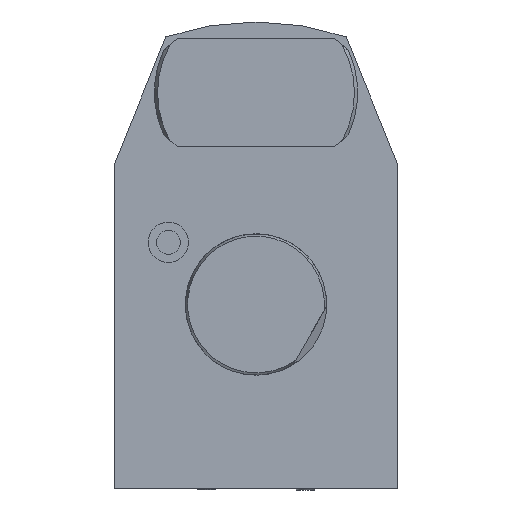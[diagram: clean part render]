
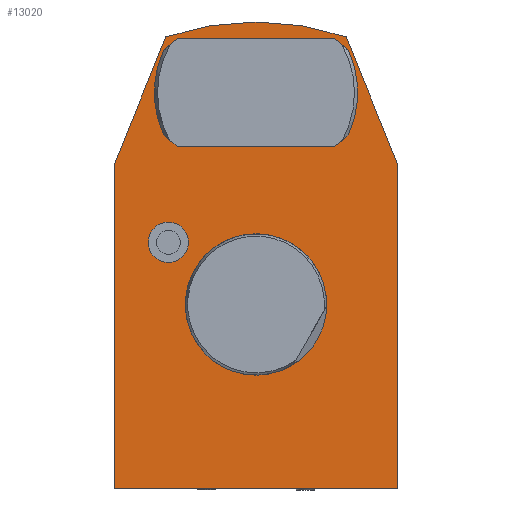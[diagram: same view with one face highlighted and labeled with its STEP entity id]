
A CAD part, left-side view. The second image highlights one B-rep face of the part: STEP entity #13020.
In plain terms, the highlighted planar face has unit normal (-1, 0, 0).
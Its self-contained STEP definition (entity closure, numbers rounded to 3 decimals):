
#5728=CIRCLE('',#12445,100.);
#5729=CIRCLE('',#12446,7.135);
#5730=CIRCLE('',#12447,25.);
#5731=CIRCLE('',#12448,30.);
#5732=CIRCLE('',#12449,30.);
#5976=ORIENTED_EDGE('',*,*,#8189,.F.);
#5977=ORIENTED_EDGE('',*,*,#8190,.F.);
#5978=ORIENTED_EDGE('',*,*,#8169,.F.);
#5979=ORIENTED_EDGE('',*,*,#8191,.F.);
#5980=ORIENTED_EDGE('',*,*,#8180,.F.);
#5981=ORIENTED_EDGE('',*,*,#8192,.F.);
#5982=ORIENTED_EDGE('',*,*,#8193,.T.);
#5983=ORIENTED_EDGE('',*,*,#8194,.T.);
#5984=ORIENTED_EDGE('',*,*,#8195,.F.);
#5985=ORIENTED_EDGE('',*,*,#8196,.F.);
#5986=ORIENTED_EDGE('',*,*,#8197,.F.);
#5987=ORIENTED_EDGE('',*,*,#8198,.F.);
#7031=VECTOR('',#9474,1.);
#7037=VECTOR('',#9494,1.);
#7041=VECTOR('',#9512,1.);
#7042=VECTOR('',#9513,1.);
#7043=VECTOR('',#9514,1.);
#7044=VECTOR('',#9521,1.);
#7045=VECTOR('',#9524,1.);
#7397=LINE('',#10686,#7031);
#7403=LINE('',#10709,#7037);
#7407=LINE('',#10727,#7041);
#7408=LINE('',#10728,#7042);
#7409=LINE('',#10729,#7043);
#7410=LINE('',#10738,#7044);
#7411=LINE('',#10741,#7045);
#7763=VERTEX_POINT('',#10683);
#7764=VERTEX_POINT('',#10685);
#7773=VERTEX_POINT('',#10707);
#7774=VERTEX_POINT('',#10708);
#7780=VERTEX_POINT('',#10724);
#7781=VERTEX_POINT('',#10725);
#7782=VERTEX_POINT('',#10730);
#7783=VERTEX_POINT('',#10732);
#7784=VERTEX_POINT('',#10734);
#7785=VERTEX_POINT('',#10735);
#7786=VERTEX_POINT('',#10737);
#7787=VERTEX_POINT('',#10739);
#8169=EDGE_CURVE('',#7763,#7764,#7397,.T.);
#8180=EDGE_CURVE('',#7773,#7774,#7403,.T.);
#8189=EDGE_CURVE('',#7780,#7781,#5728,.T.);
#8190=EDGE_CURVE('',#7764,#7780,#7407,.T.);
#8191=EDGE_CURVE('',#7774,#7763,#7408,.T.);
#8192=EDGE_CURVE('',#7781,#7773,#7409,.T.);
#8193=EDGE_CURVE('',#7782,#7782,#5729,.T.);
#8194=EDGE_CURVE('',#7783,#7783,#5730,.T.);
#8195=EDGE_CURVE('',#7784,#7785,#5731,.T.);
#8196=EDGE_CURVE('',#7786,#7784,#7410,.T.);
#8197=EDGE_CURVE('',#7787,#7786,#5732,.T.);
#8198=EDGE_CURVE('',#7785,#7787,#7411,.T.);
#8706=EDGE_LOOP('',(#5976,#5977,#5978,#5979,#5980,#5981));
#8707=EDGE_LOOP('',(#5982));
#8708=EDGE_LOOP('',(#5983));
#8709=EDGE_LOOP('',(#5984,#5985,#5986,#5987));
#9057=FACE_BOUND('',#8706,.T.);
#9058=FACE_BOUND('',#8707,.T.);
#9059=FACE_BOUND('',#8708,.T.);
#9060=FACE_BOUND('',#8709,.T.);
#9474=DIRECTION('',(0.,0.,115.));
#9494=DIRECTION('',(0.,0.,-115.));
#9508=DIRECTION('',(-1.,0.,0.));
#9509=DIRECTION('',(0.,1.,0.));
#9510=DIRECTION('',(1.,0.,0.));
#9511=DIRECTION('',(0.,-9.487,99.549));
#9512=DIRECTION('',(0.,-18.089,44.772));
#9513=DIRECTION('',(0.,100.,0.));
#9514=DIRECTION('',(0.,-18.089,-44.772));
#9515=DIRECTION('',(1.,0.,0.));
#9516=DIRECTION('',(0.,7.135,0.));
#9517=DIRECTION('',(1.,0.,0.));
#9518=DIRECTION('',(0.,-25.,0.));
#9519=DIRECTION('',(-1.,0.,0.));
#9520=DIRECTION('',(0.,30.,0.));
#9521=DIRECTION('',(0.,46.433,0.));
#9522=DIRECTION('',(-1.,0.,0.));
#9523=DIRECTION('',(0.,30.,0.));
#9524=DIRECTION('',(0.,-46.433,0.));
#10683=CARTESIAN_POINT('',(0.,50.,-65.));
#10685=CARTESIAN_POINT('',(0.,50.,50.));
#10686=CARTESIAN_POINT('',(0.,50.,-65.));
#10707=CARTESIAN_POINT('',(0.,-50.,50.));
#10708=CARTESIAN_POINT('',(0.,-50.,-65.));
#10709=CARTESIAN_POINT('',(0.,-50.,50.));
#10723=CARTESIAN_POINT('',(0.,50.,86.603));
#10724=CARTESIAN_POINT('',(0.,31.911,94.772));
#10725=CARTESIAN_POINT('',(0.,-31.911,94.772));
#10726=CARTESIAN_POINT('',(0.,0.,0.));
#10727=CARTESIAN_POINT('',(0.,50.,50.));
#10728=CARTESIAN_POINT('',(0.,-50.,-65.));
#10729=CARTESIAN_POINT('',(0.,-31.911,94.772));
#10730=CARTESIAN_POINT('',(0.,38.135,22.));
#10731=CARTESIAN_POINT('',(0.,31.,22.));
#10732=CARTESIAN_POINT('',(0.,-21.651,-12.5));
#10733=CARTESIAN_POINT('',(0.,0.,0.));
#10734=CARTESIAN_POINT('',(0.,23.216,94.));
#10735=CARTESIAN_POINT('',(0.,23.216,56.));
#10736=CARTESIAN_POINT('',(0.,0.,
75.));
#10737=CARTESIAN_POINT('',(0.,-23.216,94.));
#10738=CARTESIAN_POINT('',(0.,-23.216,94.));
#10739=CARTESIAN_POINT('',(0.,-23.216,56.));
#10740=CARTESIAN_POINT('',(0.,0.,
75.));
#10741=CARTESIAN_POINT('',(0.,23.216,56.));
#12444=AXIS2_PLACEMENT_3D('',#10723,#9508,#9509);
#12445=AXIS2_PLACEMENT_3D('',#10726,#9510,#9511);
#12446=AXIS2_PLACEMENT_3D('',#10731,#9515,#9516);
#12447=AXIS2_PLACEMENT_3D('',#10733,#9517,#9518);
#12448=AXIS2_PLACEMENT_3D('',#10736,#9519,#9520);
#12449=AXIS2_PLACEMENT_3D('',#10740,#9522,#9523);
#12834=PLANE('',#12444);
#13020=ADVANCED_FACE('',(#9057,#9058,#9059,#9060),#12834,.T.);
